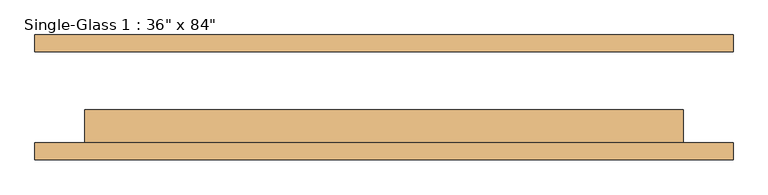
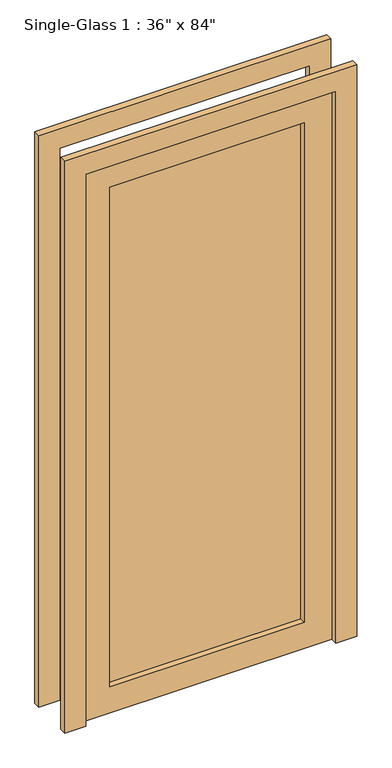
"""IFC4 building model written with IfcOpenShell, lengths in millimetres: door geometry."""

from ifc_helpers import new_model, si_unit, frame, origin, place, context, project, spatial, polyline, outline, extrude, source, transform, mapped, element, save


def door_4364fc02(model_context):
    return source(origin(), model_context, "Body", "SweptSolid", [
        extrude(outline(polyline([(2133.6, 457.2), (0.0, 457.2), (0.0, 533.4), (2209.8, 533.4), (2209.8, -533.4), (0.0, -533.4), (0.0, -457.2), (2133.6, -457.2), (2133.6, 457.2)])), frame((0.0, 69.85, 0.0), z_axis=(0.0, 1.0, 0.0), x_axis=(0.0, 0.0, 1.0)), (0.0, 0.0, 1.0), 25.4),
        extrude(outline(polyline([(2133.6, 457.2), (0.0, 457.2), (0.0, 533.4), (2209.8, 533.4), (2209.8, -533.4), (0.0, -533.4), (0.0, -457.2), (2133.6, -457.2), (2133.6, 457.2)])), frame((0.0, -95.25, 0.0), z_axis=(0.0, 1.0, 0.0), x_axis=(0.0, 0.0, 1.0)), (0.0, 0.0, 1.0), 25.4),
        extrude(outline(polyline([(355.6, -41.275), (355.6, -47.625), (-355.6, -47.625), (-355.6, -41.275), (355.6, -41.275)])), frame((0.0, 0.0, 101.6), z_axis=(0.0, 0.0, 1.0), x_axis=(1.0, 0.0, 0.0)), (0.0, 0.0, 1.0), 1930.4),
        extrude(outline(polyline([(2133.6, 457.2), (2133.6, -457.2), (0.0, -457.2), (0.0, 457.2), (2133.6, 457.2)]), holes=[polyline([(2032.0, -355.6), (2032.0, 355.6), (101.6, 355.6), (101.6, -355.6), (2032.0, -355.6)])]), frame((0.0, -69.85, 0.0), z_axis=(0.0, 1.0, 0.0), x_axis=(0.0, 0.0, 1.0)), (0.0, 0.0, 1.0), 50.8),
    ])


if __name__ == "__main__":
    model = new_model("IFC4")
    model_context = context("Model", 3, world=origin())
    ifc_project = project(units=[si_unit("LENGTHUNIT", "METRE", prefix="MILLI")], contexts=[model_context])
    site = spatial("IfcSite", under=ifc_project)
    building = spatial("IfcBuilding", under=site)
    placement = place(None, origin())
    door_shape = door_4364fc02(model_context)
    element("IfcDoor", 1, ObjectType="Single-Glass 1 : 36\" x 84\"", at=placement, inside=building, context=model_context, shape_type="MappedRepresentation", body=[
        mapped(door_shape, transform((0.0, 0.0, 0.0), x_axis=(1.0, 0.0, 0.0), y_axis=(0.0, 1.0, 0.0), z_axis=(0.0, 0.0, 1.0))),
    ])
    save(model, "model.ifc")
